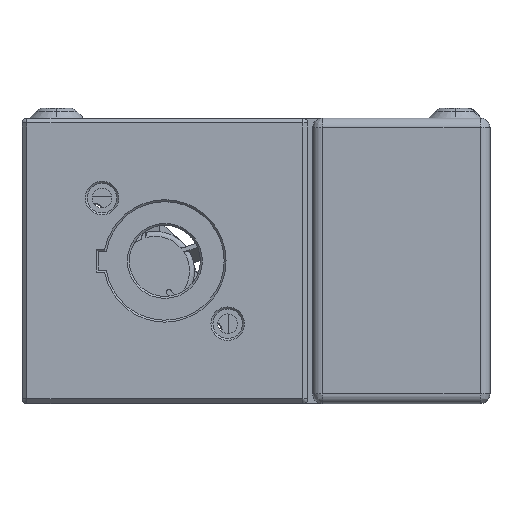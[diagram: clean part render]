
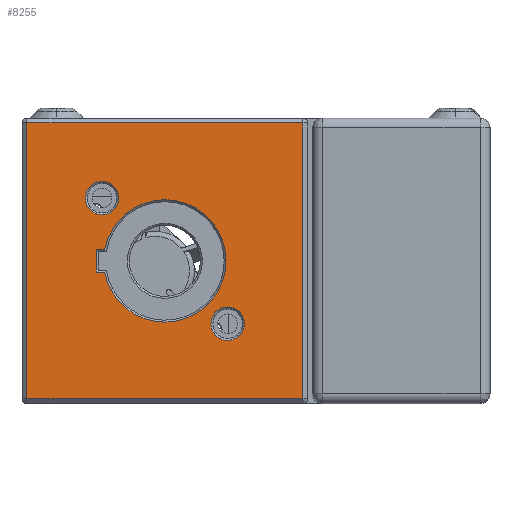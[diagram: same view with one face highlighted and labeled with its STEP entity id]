
A CAD part, front view. The second image highlights one B-rep face of the part: STEP entity #8255.
In plain terms, the highlighted planar face has unit normal (0, -1, 0) as drawn and (0, 0, 1) by its records, which use the part's own axes.
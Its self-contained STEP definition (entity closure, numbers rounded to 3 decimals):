
#1949 = ORIENTED_EDGE ( 'NONE', *, *, #22886, .T. ) ;
#2859 = EDGE_CURVE ( 'NONE', #69203, #54593, #87475, .T. ) ;
#3036 = EDGE_CURVE ( 'NONE', #95386, #53914, #17370, .T. ) ;
#3142 = VECTOR ( 'NONE', #59792, 1000. ) ;
#4031 = CIRCLE ( 'NONE', #46065, 12.425 ) ;
#4442 = LINE ( 'NONE', #84298, #3142 ) ;
#5357 = CARTESIAN_POINT ( 'NONE',  ( -21., 4.82, 31. ) ) ;
#5824 = CARTESIAN_POINT ( 'NONE',  ( -9.4, 31.5, 31. ) ) ;
#5855 = VERTEX_POINT ( 'NONE', #63691 ) ;
#6493 = LINE ( 'NONE', #18588, #88353 ) ;
#8255 = ADVANCED_FACE ( 'NONE', ( #39279, #62855, #20679, #85108 ), #73289, .T. ) ;
#11227 = VERTEX_POINT ( 'NONE', #82906 ) ;
#11432 = LINE ( 'NONE', #92985, #56117 ) ;
#12247 = DIRECTION ( 'NONE',  ( 0., 0., -1. ) ) ;
#13011 = EDGE_LOOP ( 'NONE', ( #57943, #45024, #97109, #81187, #75966, #96352 ) ) ;
#14701 = EDGE_CURVE ( 'NONE', #46546, #5855, #66170, .T. ) ;
#14835 = VECTOR ( 'NONE', #38872, 1000. ) ;
#15224 = VERTEX_POINT ( 'NONE', #98404 ) ;
#17370 = LINE ( 'NONE', #29875, #14835 ) ;
#17704 = EDGE_LOOP ( 'NONE', ( #83603, #54105 ) ) ;
#18588 = CARTESIAN_POINT ( 'NONE',  ( -46.75, 46.75, 31. ) ) ;
#20679 = FACE_BOUND ( 'NONE', #17704, .T. ) ;
#20900 = DIRECTION ( 'NONE',  ( 1., 0., 0. ) ) ;
#21048 = CIRCLE ( 'NONE', #58443, 3.4 ) ;
#22188 = CARTESIAN_POINT ( 'NONE',  ( -6.325, 18.75, 31. ) ) ;
#22886 = EDGE_CURVE ( 'NONE', #70180, #15224, #73017, .T. ) ;
#25267 = CARTESIAN_POINT ( 'NONE',  ( -2.6, 31.5, 31. ) ) ;
#26069 = AXIS2_PLACEMENT_3D ( 'NONE', #82343, #42894, #89925 ) ;
#26841 = CARTESIAN_POINT ( 'NONE',  ( 9.25, 46.75, 31. ) ) ;
#27767 = AXIS2_PLACEMENT_3D ( 'NONE', #49502, #80998, #48810 ) ;
#28551 = AXIS2_PLACEMENT_3D ( 'NONE', #91934, #37224, #29584 ) ;
#29584 = DIRECTION ( 'NONE',  ( 1., 0., 0. ) ) ;
#29875 = CARTESIAN_POINT ( 'NONE',  ( -21., 46.75, 31. ) ) ;
#31651 = ORIENTED_EDGE ( 'NONE', *, *, #74729, .T. ) ;
#32816 = CARTESIAN_POINT ( 'NONE',  ( -46.75, 46.75, 31. ) ) ;
#36363 = VERTEX_POINT ( 'NONE', #71389 ) ;
#37224 = DIRECTION ( 'NONE',  ( 0., 0., -1. ) ) ;
#37549 = CARTESIAN_POINT ( 'NONE',  ( 9.25, -9.25, 31. ) ) ;
#37946 = DIRECTION ( 'NONE',  ( -1., 0., 0. ) ) ;
#38872 = DIRECTION ( 'NONE',  ( 0., 1., 0. ) ) ;
#39279 = FACE_OUTER_BOUND ( 'NONE', #61583, .T. ) ;
#39498 = DIRECTION ( 'NONE',  ( 0., 0., -1. ) ) ;
#39611 = AXIS2_PLACEMENT_3D ( 'NONE', #84409, #84735, #45281 ) ;
#39938 = EDGE_CURVE ( 'NONE', #54593, #70180, #59990, .T. ) ;
#40435 = DIRECTION ( 'NONE',  ( 0., 0., 1. ) ) ;
#41203 = AXIS2_PLACEMENT_3D ( 'NONE', #76680, #12247, #53151 ) ;
#41626 = VERTEX_POINT ( 'NONE', #5824 ) ;
#41825 = CIRCLE ( 'NONE', #28551, 12.425 ) ;
#42705 = VERTEX_POINT ( 'NONE', #56629 ) ;
#42894 = DIRECTION ( 'NONE',  ( 0., 0., -1. ) ) ;
#44267 = DIRECTION ( 'NONE',  ( 0., 0., -1. ) ) ;
#45024 = ORIENTED_EDGE ( 'NONE', *, *, #58218, .T. ) ;
#45281 = DIRECTION ( 'NONE',  ( 1., 0., 0. ) ) ;
#46065 = AXIS2_PLACEMENT_3D ( 'NONE', #95188, #39498, #47844 ) ;
#46546 = VERTEX_POINT ( 'NONE', #78725 ) ;
#47844 = DIRECTION ( 'NONE',  ( 1., 0., 0. ) ) ;
#48810 = DIRECTION ( 'NONE',  ( 1., 0., 0. ) ) ;
#49502 = CARTESIAN_POINT ( 'NONE',  ( -6., 31.5, 31. ) ) ;
#49657 = DIRECTION ( 'NONE',  ( -1., 0., 0. ) ) ;
#50073 = DIRECTION ( 'NONE',  ( 0., 1., 0. ) ) ;
#52234 = ORIENTED_EDGE ( 'NONE', *, *, #2859, .T. ) ;
#53151 = DIRECTION ( 'NONE',  ( 1., 0., 0. ) ) ;
#53914 = VERTEX_POINT ( 'NONE', #68869 ) ;
#54105 = ORIENTED_EDGE ( 'NONE', *, *, #93615, .T. ) ;
#54378 = EDGE_CURVE ( 'NONE', #11227, #36363, #4442, .T. ) ;
#54389 = CIRCLE ( 'NONE', #27767, 3.4 ) ;
#54593 = VERTEX_POINT ( 'NONE', #37549 ) ;
#56117 = VECTOR ( 'NONE', #37946, 1000. ) ;
#56629 = CARTESIAN_POINT ( 'NONE',  ( -31.175, 18.75, 31. ) ) ;
#57522 = VERTEX_POINT ( 'NONE', #22188 ) ;
#57943 = ORIENTED_EDGE ( 'NONE', *, *, #3036, .T. ) ;
#58218 = EDGE_CURVE ( 'NONE', #53914, #42705, #4031, .T. ) ;
#58443 = AXIS2_PLACEMENT_3D ( 'NONE', #99972, #44267, #76105 ) ;
#59792 = DIRECTION ( 'NONE',  ( 0., -1., 0. ) ) ;
#59990 = LINE ( 'NONE', #26841, #79709 ) ;
#60424 = CARTESIAN_POINT ( 'NONE',  ( -46.75, -9.25, 31. ) ) ;
#61583 = EDGE_LOOP ( 'NONE', ( #62514, #1949, #77540, #52234 ) ) ;
#62514 = ORIENTED_EDGE ( 'NONE', *, *, #39938, .T. ) ;
#62855 = FACE_BOUND ( 'NONE', #94188, .T. ) ;
#63691 = CARTESIAN_POINT ( 'NONE',  ( -34.9, 6., 31. ) ) ;
#64016 = DIRECTION ( 'NONE',  ( 1., 0., 0. ) ) ;
#64363 = EDGE_CURVE ( 'NONE', #36363, #95386, #11432, .T. ) ;
#66170 = CIRCLE ( 'NONE', #41203, 3.4 ) ;
#68869 = CARTESIAN_POINT ( 'NONE',  ( -21., 6.53, 31. ) ) ;
#69203 = VERTEX_POINT ( 'NONE', #60424 ) ;
#70180 = VERTEX_POINT ( 'NONE', #71198 ) ;
#71198 = CARTESIAN_POINT ( 'NONE',  ( 9.25, 46.75, 31. ) ) ;
#71389 = CARTESIAN_POINT ( 'NONE',  ( -16.5, 4.82, 31. ) ) ;
#71814 = CIRCLE ( 'NONE', #26069, 3.4 ) ;
#73017 = LINE ( 'NONE', #97397, #91578 ) ;
#73289 = PLANE ( 'NONE',  #88570 ) ;
#74729 = EDGE_CURVE ( 'NONE', #5855, #46546, #21048, .T. ) ;
#75966 = ORIENTED_EDGE ( 'NONE', *, *, #54378, .T. ) ;
#76105 = DIRECTION ( 'NONE',  ( 1., 0., 0. ) ) ;
#76680 = CARTESIAN_POINT ( 'NONE',  ( -31.5, 6., 31. ) ) ;
#77524 = VECTOR ( 'NONE', #20900, 1000. ) ;
#77540 = ORIENTED_EDGE ( 'NONE', *, *, #87462, .T. ) ;
#78725 = CARTESIAN_POINT ( 'NONE',  ( -28.1, 6., 31. ) ) ;
#79709 = VECTOR ( 'NONE', #50073, 1000. ) ;
#80998 = DIRECTION ( 'NONE',  ( 0., 0., -1. ) ) ;
#81187 = ORIENTED_EDGE ( 'NONE', *, *, #85085, .T. ) ;
#81980 = DIRECTION ( 'NONE',  ( 0., -1., 0. ) ) ;
#82343 = CARTESIAN_POINT ( 'NONE',  ( -6., 31.5, 31. ) ) ;
#82722 = ORIENTED_EDGE ( 'NONE', *, *, #14701, .T. ) ;
#82848 = EDGE_CURVE ( 'NONE', #98840, #41626, #71814, .T. ) ;
#82906 = CARTESIAN_POINT ( 'NONE',  ( -16.5, 6.53, 31. ) ) ;
#82907 = CIRCLE ( 'NONE', #39611, 12.425 ) ;
#83603 = ORIENTED_EDGE ( 'NONE', *, *, #82848, .T. ) ;
#84298 = CARTESIAN_POINT ( 'NONE',  ( -16.5, 46.75, 31. ) ) ;
#84409 = CARTESIAN_POINT ( 'NONE',  ( -18.75, 18.75, 31. ) ) ;
#84735 = DIRECTION ( 'NONE',  ( 0., 0., -1. ) ) ;
#85085 = EDGE_CURVE ( 'NONE', #57522, #11227, #82907, .T. ) ;
#85108 = FACE_BOUND ( 'NONE', #13011, .T. ) ;
#87462 = EDGE_CURVE ( 'NONE', #15224, #69203, #6493, .T. ) ;
#87475 = LINE ( 'NONE', #97789, #77524 ) ;
#88353 = VECTOR ( 'NONE', #81980, 1000. ) ;
#88570 = AXIS2_PLACEMENT_3D ( 'NONE', #32816, #40435, #64016 ) ;
#89925 = DIRECTION ( 'NONE',  ( 1., 0., 0. ) ) ;
#91578 = VECTOR ( 'NONE', #49657, 1000. ) ;
#91934 = CARTESIAN_POINT ( 'NONE',  ( -18.75, 18.75, 31. ) ) ;
#92985 = CARTESIAN_POINT ( 'NONE',  ( -46.75, 4.82, 31. ) ) ;
#93615 = EDGE_CURVE ( 'NONE', #41626, #98840, #54389, .T. ) ;
#94188 = EDGE_LOOP ( 'NONE', ( #82722, #31651 ) ) ;
#94211 = EDGE_CURVE ( 'NONE', #42705, #57522, #41825, .T. ) ;
#95188 = CARTESIAN_POINT ( 'NONE',  ( -18.75, 18.75, 31. ) ) ;
#95386 = VERTEX_POINT ( 'NONE', #5357 ) ;
#96352 = ORIENTED_EDGE ( 'NONE', *, *, #64363, .T. ) ;
#97109 = ORIENTED_EDGE ( 'NONE', *, *, #94211, .T. ) ;
#97397 = CARTESIAN_POINT ( 'NONE',  ( -46.75, 46.75, 31. ) ) ;
#97789 = CARTESIAN_POINT ( 'NONE',  ( -46.75, -9.25, 31. ) ) ;
#98404 = CARTESIAN_POINT ( 'NONE',  ( -46.75, 46.75, 31. ) ) ;
#98840 = VERTEX_POINT ( 'NONE', #25267 ) ;
#99972 = CARTESIAN_POINT ( 'NONE',  ( -31.5, 6., 31. ) ) ;
